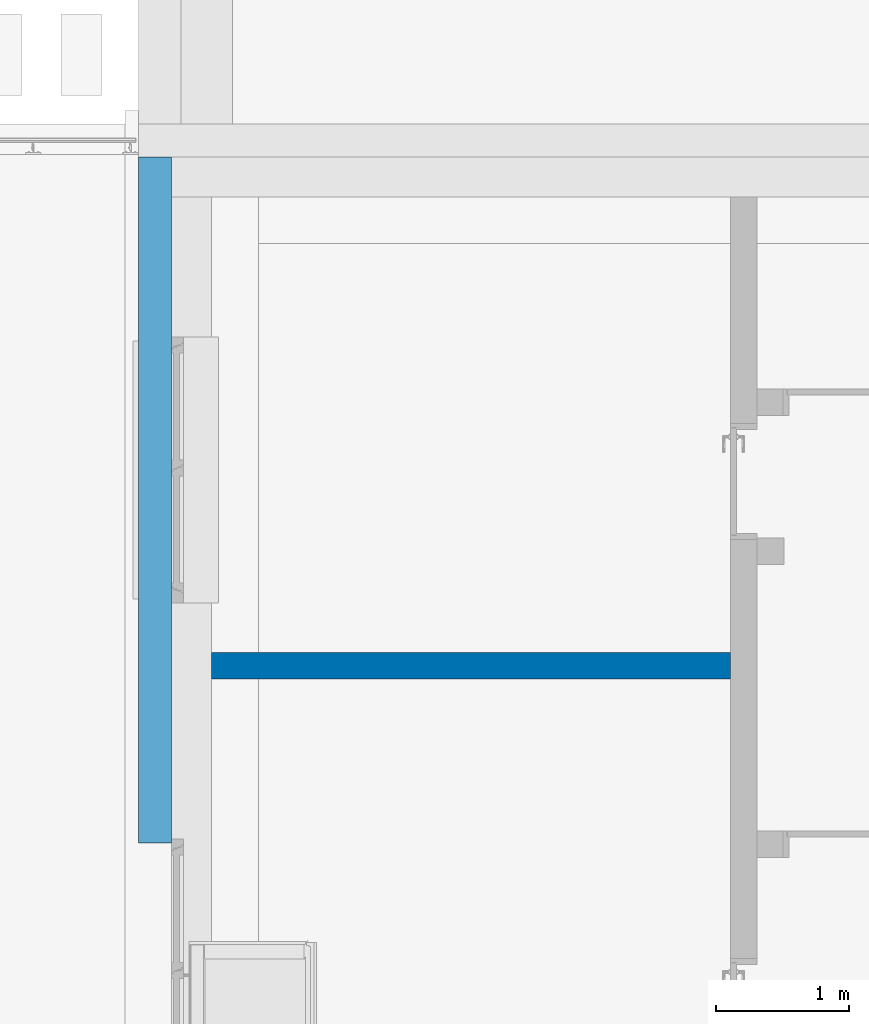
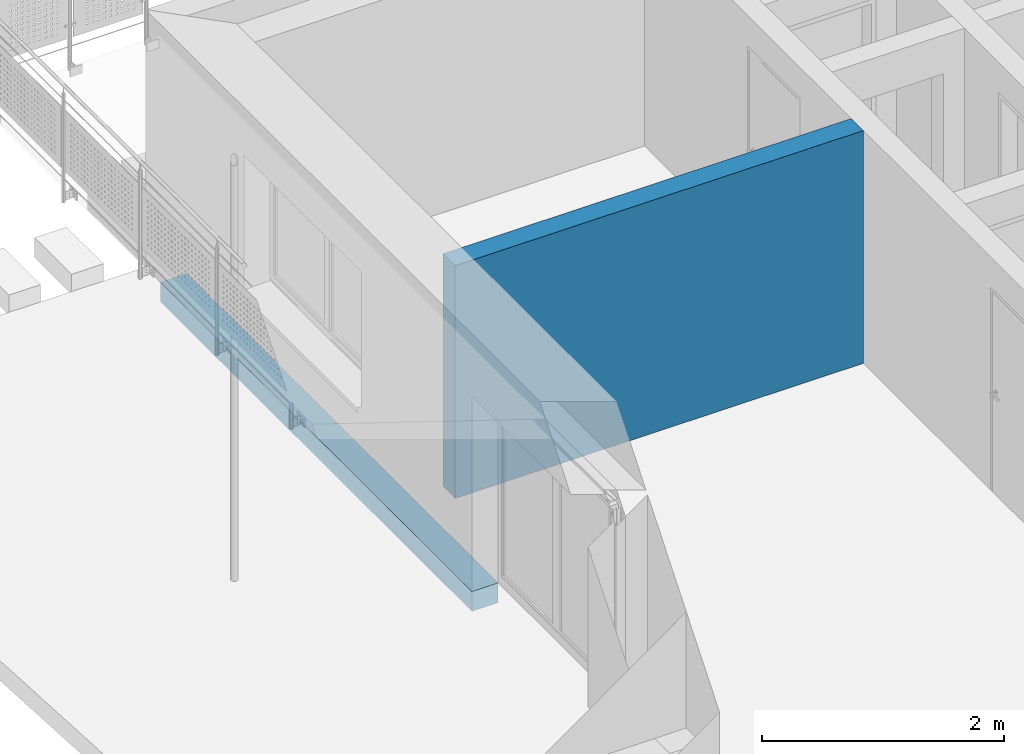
# One storey, part 6 of 22: 2 walls.
"""IFC2X3 building model written with IfcOpenShell, lengths in metres."""

from ifc_helpers import new_model, entity, si_unit, converted_unit, derived_unit, direction, frame, frame_2d, origin, place, context, subcontext, project, spatial, polyline, rectangle, extrude, clip, bounded_halfspace, material, layer, layer_set, layer_usage, type_object, element, save


model = new_model("IFC2X3")

# Units and contexts
model_context = context("Model", 3, precision=1e-05, world=origin(), true_north=direction((6.123233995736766e-17, 1.0)))
body_context = subcontext(model_context, "Body", "Model", "MODEL_VIEW")
ifc_project = project(units=[si_unit("LENGTHUNIT", "METRE"), si_unit("AREAUNIT", "SQUARE_METRE"), si_unit("VOLUMEUNIT", "CUBIC_METRE"), si_unit("POWERUNIT", "WATT"), derived_unit("USERDEFINED", [(si_unit("MASSUNIT", "GRAM", prefix="KILO"), 1), (si_unit("TIMEUNIT", "SECOND"), -3)]), derived_unit("THERMALRESISTANCEUNIT", [(si_unit("MASSUNIT", "GRAM", prefix="KILO"), -1), (si_unit("TIMEUNIT", "SECOND"), 3), (si_unit("THERMODYNAMICTEMPERATUREUNIT", "KELVIN"), 1)]), derived_unit("USERDEFINED", [(si_unit("MASSUNIT", "GRAM", prefix="KILO"), 1), (si_unit("TIMEUNIT", "SECOND"), -2), (si_unit("THERMODYNAMICTEMPERATUREUNIT", "KELVIN"), -1)]), derived_unit("THERMALTRANSMITTANCEUNIT", [(si_unit("MASSUNIT", "GRAM", prefix="KILO"), 1), (si_unit("TIMEUNIT", "SECOND"), -3), (si_unit("THERMODYNAMICTEMPERATUREUNIT", "KELVIN"), -1)]), converted_unit("PLANEANGLEUNIT", "DEGREE", entity("IfcPlaneAngleMeasure", 0.017453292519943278), si_unit("PLANEANGLEUNIT", "RADIAN"), dimensions=[0, 0, 0, 0, 0, 0, 0]), derived_unit("MOMENTOFINERTIAUNIT", [(si_unit("LENGTHUNIT", "METRE"), 4)])], contexts=[model_context])

# Site, building, storey
site_placement = place(None, origin())
site = spatial("IfcSite", under=ifc_project, at=site_placement, Name="Default", CompositionType="ELEMENT")
building_placement = place(site_placement, origin())
building = spatial("IfcBuilding", under=site, at=building_placement, CompositionType="ELEMENT")
storey_placement = place(building_placement, origin())
storey = spatial("IfcBuildingStorey", under=building, at=storey_placement, Name="Untergeschoss", CompositionType="ELEMENT", Elevation=0.0)

# Walls
ifc_material_1 = material(Name="Mauerwerk - Ziegel")
ifc_layer_1 = layer(ifc_material_1, 0.2)
ifc_layer_set_1 = layer_set([ifc_layer_1], Name="Basiswand:Ziegel 200")
ifc_layer_usage_1 = layer_usage(ifc_layer_set_1, "AXIS2", "POSITIVE", -0.1)
wall_type_1 = type_object("IfcWallType", Name="Basiswand:Ziegel 200", PredefinedType="STANDARD", material=ifc_layer_set_1)
wall_1_placement = place(storey_placement, frame((33.98375489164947, 24.522272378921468, 0.0), z_axis=(0.0, 0.0, 1.0), x_axis=(-1.0, 0.0, 0.0)))
element("IfcWallStandardCase", 1, at=wall_1_placement, inside=storey, type_object=wall_type_1, material=ifc_layer_usage_1, Name="Basiswand:Ziegel 200", ObjectType="Basiswand:Ziegel 200", context=body_context, shape_type="Clipping", body=[
    clip(extrude(rectangle(XDim=3.897034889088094, YDim=0.19999999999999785, at=frame_2d((1.948517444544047, 6.245004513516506e-17), x_axis=(-1.0, 0.0))), origin(), (0.0, 0.0, 1.0), 2.35), bounded_halfspace(frame((0.0, -0.10000000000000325, 2.35), z_axis=(0.0, 0.0, -1.0), x_axis=(-1.0, 0.0, 0.0)), True, frame((0.0, -0.10000000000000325, 2.35)), polyline([(0.0, 0.0), (3.8970348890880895, 0.0), (3.8970348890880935, 0.20000000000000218), (0.0, 0.20000000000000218), (0.0, 0.0)]))),
])
ifc_material_2 = material(Name="Dämmung - weich")
ifc_layer_2 = layer(ifc_material_2, 0.24999999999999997)
ifc_layer_set_2 = layer_set([ifc_layer_2], Name="Basiswand:WD weich 250")
ifc_layer_usage_2 = layer_usage(ifc_layer_set_2, "AXIS2", "NEGATIVE", 0.12499999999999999)
wall_type_2 = type_object("IfcWallType", Name="Basiswand:WD weich 250", PredefinedType="STANDARD", material=ifc_layer_set_2)
wall_2_placement = place(storey_placement, frame((29.66172000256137, 23.192272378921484, -0.2), z_axis=(0.0, 0.0, 1.0), x_axis=(0.0, 1.0, 0.0)))
element("IfcWallStandardCase", 2, at=wall_2_placement, inside=storey, type_object=wall_type_2, material=ifc_layer_usage_2, Name="Basiswand:WD weich 250", ObjectType="Basiswand:WD weich 250", context=body_context, shape_type="SweptSolid", body=[
    extrude(rectangle(XDim=5.149999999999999, YDim=0.25000000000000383, at=frame_2d((2.5749999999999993, -1.5265566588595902e-16), x_axis=(-1.0, 0.0))), origin(), (0.0, 0.0, 1.0), 0.20000000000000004),
])

save(model, "model.ifc")
